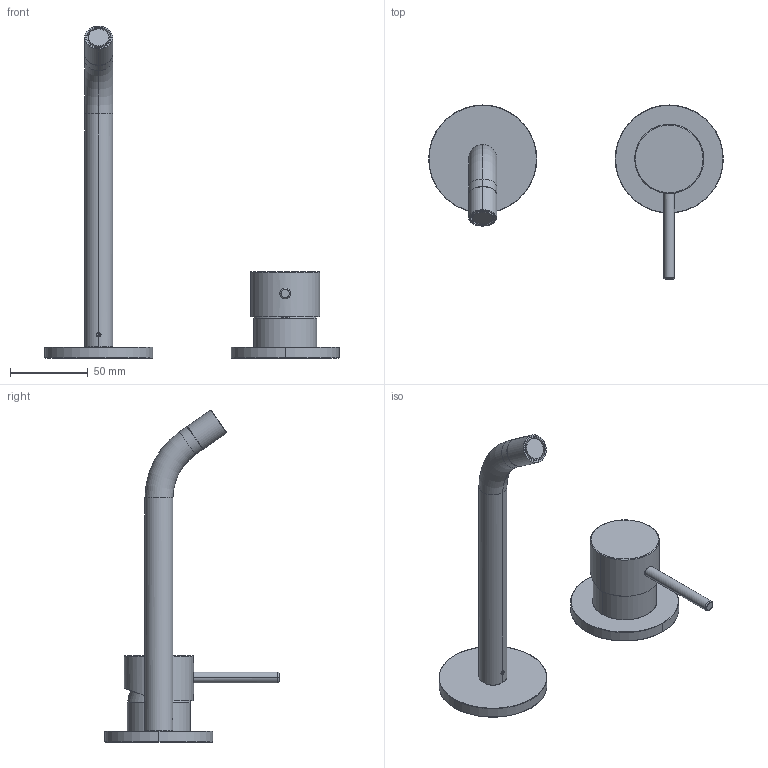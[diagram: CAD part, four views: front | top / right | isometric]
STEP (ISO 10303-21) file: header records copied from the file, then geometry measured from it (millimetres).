
FILE_DESCRIPTION((''),'2;1');
FILE_NAME('F3051LX8_FILE_3D','2016-03-08T',('ivanv'),(''),'CREO PARAMETRIC BY PTC INC, 2015290','CREO PARAMETRIC BY PTC INC, 2015290','');
FILE_SCHEMA(('CONFIG_CONTROL_DESIGN'));
Length unit declared in the file: millimetre
Products named in the file (1): F3051LX8_FILE_3D
Bounding box: 189.5 x 112 x 213.57 mm (x, y, z)
Volume: 73654.7 mm3; surface area: 63708.8 mm2
Topology: 4 solids, 5 shells, 732 faces, 1797 edges, 1099 vertices
Faces by surface type: plane 369, cylinder 132, bspline 97, torus 96, cone 36, sphere 2
Entity records: 28431 total; most frequent: CARTESIAN_POINT 11758, ORIENTED_EDGE 3566, DIRECTION 3259, EDGE_CURVE 1783, VECTOR 1107, LINE 1107, VERTEX_POINT 1099, AXIS2_PLACEMENT_3D 1076
